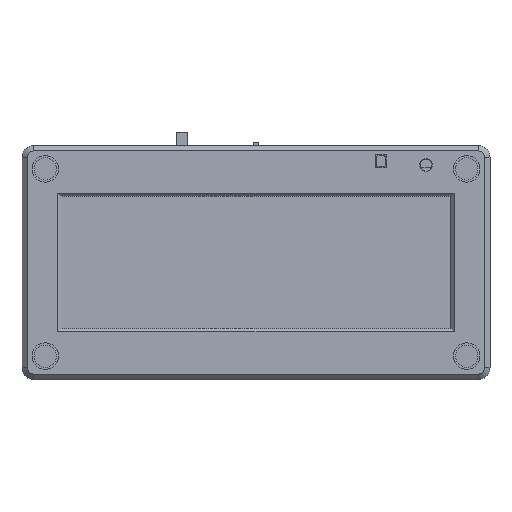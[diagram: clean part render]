
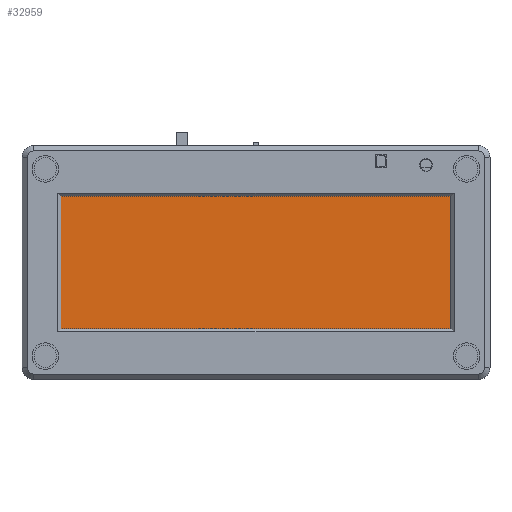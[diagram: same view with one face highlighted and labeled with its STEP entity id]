
A CAD part, top view. The second image highlights one B-rep face of the part: STEP entity #32959.
In plain terms, the highlighted planar face has unit normal (0, 0, 1).
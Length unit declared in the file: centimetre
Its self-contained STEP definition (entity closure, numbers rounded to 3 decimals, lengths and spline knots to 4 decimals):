
#1018=FACE_OUTER_BOUND('',#2842,.T.);
#2842=EDGE_LOOP('',(#22712,#22713,#22714,#22715,#22716));
#5069=LINE('',#46809,#9594);
#5073=LINE('',#46817,#9598);
#5076=LINE('',#46823,#9601);
#5079=LINE('',#46829,#9604);
#5082=LINE('',#46834,#9607);
#9594=VECTOR('',#37998,1.);
#9598=VECTOR('',#38004,1.);
#9601=VECTOR('',#38009,1.);
#9604=VECTOR('',#38014,1.);
#9607=VECTOR('',#38019,1.);
#13964=VERTEX_POINT('',#46807);
#13965=VERTEX_POINT('',#46808);
#13968=VERTEX_POINT('',#46816);
#13970=VERTEX_POINT('',#46822);
#13972=VERTEX_POINT('',#46828);
#17336=EDGE_CURVE('',#13964,#13965,#5069,.T.);
#17340=EDGE_CURVE('',#13965,#13968,#5073,.T.);
#17343=EDGE_CURVE('',#13968,#13970,#5076,.T.);
#17346=EDGE_CURVE('',#13970,#13972,#5079,.T.);
#17349=EDGE_CURVE('',#13972,#13964,#5082,.T.);
#22712=ORIENTED_EDGE('',*,*,#17349,.T.);
#22713=ORIENTED_EDGE('',*,*,#17336,.T.);
#22714=ORIENTED_EDGE('',*,*,#17340,.T.);
#22715=ORIENTED_EDGE('',*,*,#17343,.T.);
#22716=ORIENTED_EDGE('',*,*,#17346,.T.);
#31264=PLANE('',#35113);
#32959=ADVANCED_FACE('',(#1018),#31264,.T.);
#35113=AXIS2_PLACEMENT_3D('',#46836,#38021,#38022);
#37998=DIRECTION('',(1.,0.,0.));
#38004=DIRECTION('',(0.,1.,0.));
#38009=DIRECTION('',(-1.,0.,0.));
#38014=DIRECTION('',(-0.707,-0.707,0.));
#38019=DIRECTION('',(0.,-1.,0.));
#38021=DIRECTION('center_axis',(0.,0.,1.));
#38022=DIRECTION('ref_axis',(1.,0.,0.));
#46807=CARTESIAN_POINT('',(0.8,1.1,-0.16));
#46808=CARTESIAN_POINT('',(11.2,1.1,-0.16));
#46809=CARTESIAN_POINT('',(0.8,1.1,-0.16));
#46816=CARTESIAN_POINT('',(11.2,4.9,-0.16));
#46817=CARTESIAN_POINT('',(11.2,1.1,-0.16));
#46822=CARTESIAN_POINT('',(1.1,4.9,-0.16));
#46823=CARTESIAN_POINT('',(11.2,4.9,-0.16));
#46828=CARTESIAN_POINT('',(0.8,4.6,-0.16));
#46829=CARTESIAN_POINT('',(1.1,4.9,-0.16));
#46834=CARTESIAN_POINT('',(0.8,4.6,-0.16));
#46836=CARTESIAN_POINT('Origin',(6.,3.,-0.16));
